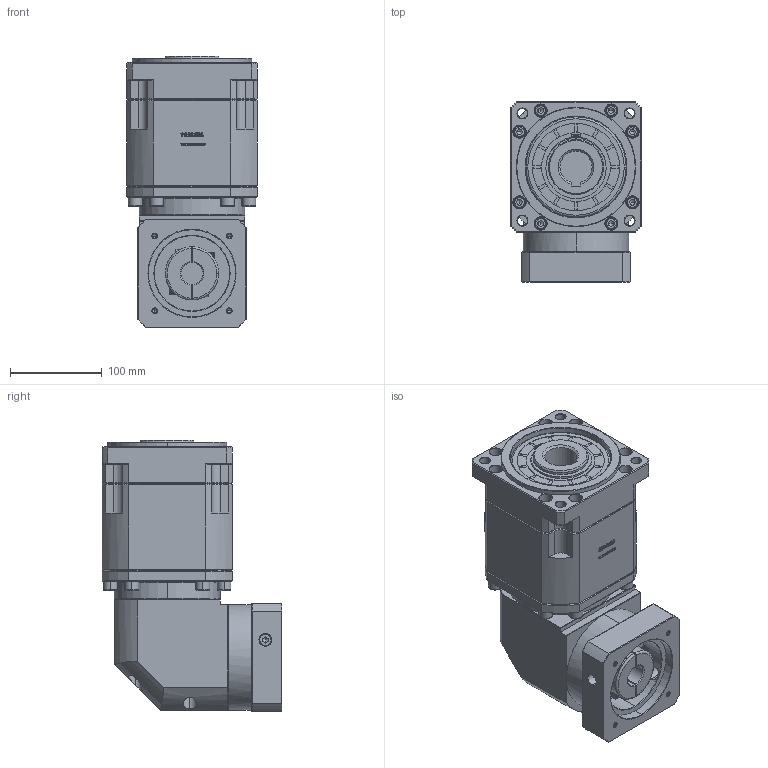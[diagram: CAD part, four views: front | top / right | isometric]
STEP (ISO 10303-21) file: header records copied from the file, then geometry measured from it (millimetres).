
FILE_DESCRIPTION (( 'STEP AP214' ), '1' );
FILE_NAME ('ZBR142A-K35-L3-24-95-115-M6.step', '2023-03-20T04:17:51', ( '' ), ( '' ), 'SwSTEP 2.0', 'SolidWorks 2016', '' );
FILE_SCHEMA (( 'AUTOMOTIVE_DESIGN' ));
Length unit declared in the file: millimetre
Products named in the file (1): ZBR142A-K35-L3-24-95-115-M6
Bounding box: 142 x 195.9 x 295.2 mm (x, y, z)
Volume: 4885819.6 mm3; surface area: 323449.7 mm2
Topology: 6 solids, 6 shells, 3117 faces, 8210 edges, 5259 vertices
Faces by surface type: plane 1644, bspline 589, cylinder 450, cone 390, torus 44
Entity records: 164297 total; most frequent: CARTESIAN_POINT 57437, ORIENTED_EDGE 16316, DIRECTION 12800, EDGE_CURVE 8158, VECTOR 5508, LINE 5508, VERTEX_POINT 5259, AXIS2_PLACEMENT_3D 3646
